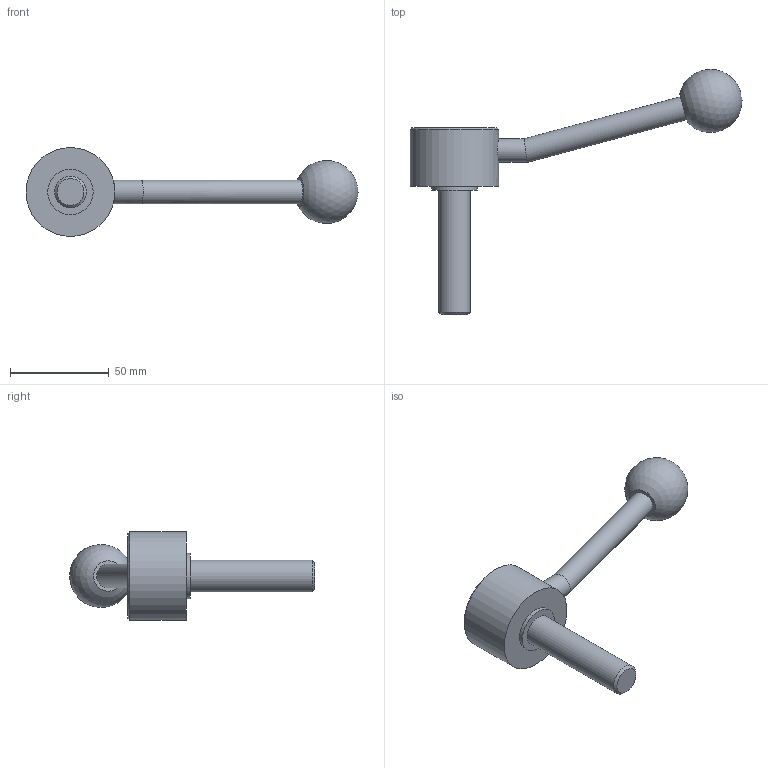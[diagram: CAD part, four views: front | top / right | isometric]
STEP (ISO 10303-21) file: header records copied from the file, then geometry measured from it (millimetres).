
FILE_DESCRIPTION( ( 'STEP AP203' ), '1' );
FILE_NAME( 'C:/Temp/Ganter_Step_05_03_2020/data/2_1/gn_125/gn_125_ms/gn_125_ms_e/Flat Adjustable Lever GN 125-45-M16-63-E.stp', '2020-03-05T11:01:03', ( 'License CC BY-ND 4.0' ), ( 'CADENAS' ), ' ', 'PARTsolutions', ' ' );
FILE_SCHEMA( ( 'CONFIG_CONTROL_DESIGN' ) );
Length unit declared in the file: millimetre
Products named in the file (1): _Flat Adjustable Lever GN 125-45-M16-63-E
Bounding box: 168.04 x 124.06 x 45 mm (x, y, z)
Volume: 87994.3 mm3; surface area: 17189.5 mm2
Topology: 1 solids, 1 shells, 15 faces, 25 edges, 16 vertices
Faces by surface type: cylinder 6, plane 6, cone 2, sphere 1
Full cylindrical faces by diameter (mm): 12 x2, 16 x1, 23 x1, 32 x1, 45 x1
Entity records: 422 total; most frequent: CARTESIAN_POINT 128, DIRECTION 58, AXIS2_PLACEMENT_3D 29, EDGE_LOOP 28, ORIENTED_EDGE 28, FACE_OUTER_BOUND 21, ADVANCED_FACE 15, VERTEX_POINT 15
